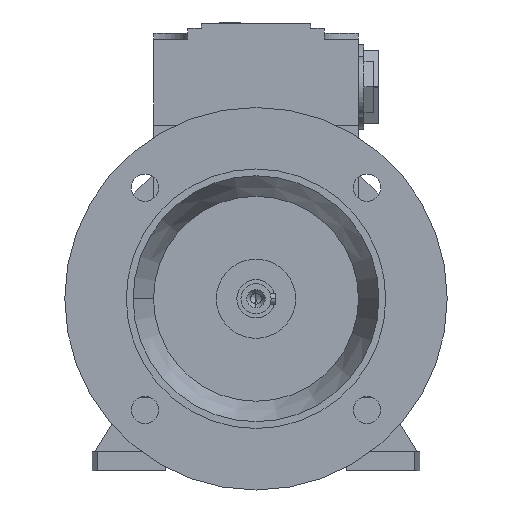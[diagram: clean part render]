
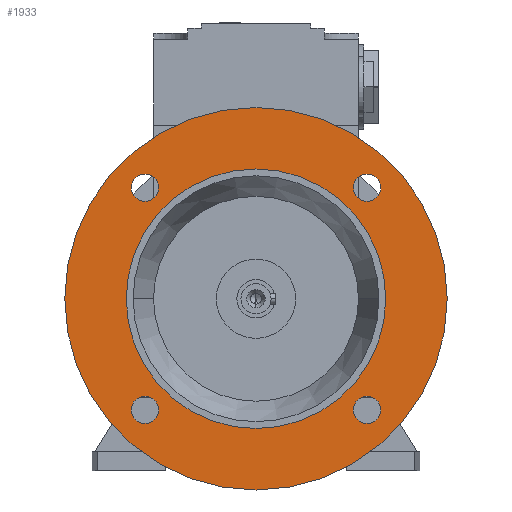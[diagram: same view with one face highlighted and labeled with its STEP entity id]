
A CAD part, left-side view. The second image highlights one B-rep face of the part: STEP entity #1933.
In plain terms, the highlighted planar face has unit normal (-1, 0, 0).
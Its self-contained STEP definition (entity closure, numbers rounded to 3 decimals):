
#1933=ADVANCED_FACE('',(#3911,#3912,#3913,#3914,#3915,#3916),#3917,.T.);
#3911=FACE_BOUND('',#5892,.T.);
#3912=FACE_BOUND('',#5893,.T.);
#3913=FACE_BOUND('',#5894,.T.);
#3914=FACE_BOUND('',#5895,.T.);
#3915=FACE_OUTER_BOUND('',#5896,.T.);
#3916=FACE_BOUND('',#5897,.T.);
#3917=PLANE('',#5898);
#5892=EDGE_LOOP('',(#11945,#11946));
#5893=EDGE_LOOP('',(#11947,#11948));
#5894=EDGE_LOOP('',(#11949,#11950));
#5895=EDGE_LOOP('',(#11951,#11952));
#5896=EDGE_LOOP('',(#11953,#11954));
#5897=EDGE_LOOP('',(#11955,#11956));
#5898=AXIS2_PLACEMENT_3D('',#11957,#11958,#11959);
#11945=ORIENTED_EDGE('',*,*,#14334,.T.);
#11946=ORIENTED_EDGE('',*,*,#12044,.T.);
#11947=ORIENTED_EDGE('',*,*,#14337,.T.);
#11948=ORIENTED_EDGE('',*,*,#12039,.T.);
#11949=ORIENTED_EDGE('',*,*,#14340,.T.);
#11950=ORIENTED_EDGE('',*,*,#12034,.T.);
#11951=ORIENTED_EDGE('',*,*,#14343,.T.);
#11952=ORIENTED_EDGE('',*,*,#12029,.T.);
#11953=ORIENTED_EDGE('',*,*,#12013,.F.);
#11954=ORIENTED_EDGE('',*,*,#14387,.F.);
#11955=ORIENTED_EDGE('',*,*,#12020,.T.);
#11956=ORIENTED_EDGE('',*,*,#14385,.T.);
#11957=CARTESIAN_POINT('',(-29.5,58.75,0.0));
#11958=DIRECTION('',(-1.0,0.0,0.0));
#11959=DIRECTION('',(0.0,-1.0,0.0));
#12013=EDGE_CURVE('',#14416,#14419,#14420,.T.);
#12020=EDGE_CURVE('',#14426,#14430,#14432,.T.);
#12029=EDGE_CURVE('',#14448,#14445,#14449,.T.);
#12034=EDGE_CURVE('',#14457,#14454,#14458,.T.);
#12039=EDGE_CURVE('',#14466,#14463,#14467,.T.);
#12044=EDGE_CURVE('',#14475,#14472,#14476,.T.);
#14334=EDGE_CURVE('',#14472,#14475,#17873,.T.);
#14337=EDGE_CURVE('',#14463,#14466,#17876,.T.);
#14340=EDGE_CURVE('',#14454,#14457,#17879,.T.);
#14343=EDGE_CURVE('',#14445,#14448,#17882,.T.);
#14385=EDGE_CURVE('',#14430,#14426,#17935,.T.);
#14387=EDGE_CURVE('',#14419,#14416,#17937,.T.);
#14416=VERTEX_POINT('',#17970);
#14419=VERTEX_POINT('',#17974);
#14420=CIRCLE('',#17975,70.0);
#14426=VERTEX_POINT('',#17982);
#14430=VERTEX_POINT('',#17987);
#14432=CIRCLE('',#17990,47.5);
#14445=VERTEX_POINT('',#18010);
#14448=VERTEX_POINT('',#18014);
#14449=CIRCLE('',#18015,5.0);
#14454=VERTEX_POINT('',#18021);
#14457=VERTEX_POINT('',#18025);
#14458=CIRCLE('',#18026,5.0);
#14463=VERTEX_POINT('',#18032);
#14466=VERTEX_POINT('',#18036);
#14467=CIRCLE('',#18037,5.0);
#14472=VERTEX_POINT('',#18043);
#14475=VERTEX_POINT('',#18047);
#14476=CIRCLE('',#18048,5.0);
#17873=CIRCLE('',#24609,5.0);
#17876=CIRCLE('',#24612,5.0);
#17879=CIRCLE('',#24615,5.0);
#17882=CIRCLE('',#24618,5.0);
#17935=CIRCLE('',#24721,47.5);
#17937=CIRCLE('',#24723,70.0);
#17970=CARTESIAN_POINT('',(-29.5,70.0,0.0));
#17974=CARTESIAN_POINT('',(-29.5,-70.0,0.));
#17975=AXIS2_PLACEMENT_3D('',#24750,#24751,#24752);
#17982=CARTESIAN_POINT('',(-29.5,47.5,0.0));
#17987=CARTESIAN_POINT('',(-29.5,-47.5,0.));
#17990=AXIS2_PLACEMENT_3D('',#24762,#24763,#24764);
#18010=CARTESIAN_POINT('',(-29.5,-44.194,44.194));
#18014=CARTESIAN_POINT('',(-29.5,-37.123,37.123));
#18015=AXIS2_PLACEMENT_3D('',#24778,#24779,#24780);
#18021=CARTESIAN_POINT('',(-29.5,44.194,44.194));
#18025=CARTESIAN_POINT('',(-29.5,37.123,37.123));
#18026=AXIS2_PLACEMENT_3D('',#24786,#24787,#24788);
#18032=CARTESIAN_POINT('',(-29.5,44.194,-44.194));
#18036=CARTESIAN_POINT('',(-29.5,37.123,-37.123));
#18037=AXIS2_PLACEMENT_3D('',#24794,#24795,#24796);
#18043=CARTESIAN_POINT('',(-29.5,-44.194,-44.194));
#18047=CARTESIAN_POINT('',(-29.5,-37.123,-37.123));
#18048=AXIS2_PLACEMENT_3D('',#24802,#24803,#24804);
#24609=AXIS2_PLACEMENT_3D('',#27088,#27089,#27090);
#24612=AXIS2_PLACEMENT_3D('',#27094,#27095,#27096);
#24615=AXIS2_PLACEMENT_3D('',#27100,#27101,#27102);
#24618=AXIS2_PLACEMENT_3D('',#27106,#27107,#27108);
#24721=AXIS2_PLACEMENT_3D('',#27142,#27143,#27144);
#24723=AXIS2_PLACEMENT_3D('',#27145,#27146,#27147);
#24750=CARTESIAN_POINT('',(-29.5,0.0,0.0));
#24751=DIRECTION('',(1.0,0.0,0.0));
#24752=DIRECTION('',(0.0,1.0,0.0));
#24762=CARTESIAN_POINT('',(-29.5,0.0,0.0));
#24763=DIRECTION('',(1.0,0.0,0.0));
#24764=DIRECTION('',(0.0,1.0,0.0));
#24778=CARTESIAN_POINT('',(-29.5,-40.659,40.659));
#24779=DIRECTION('',(1.0,0.0,-0.0));
#24780=DIRECTION('',(0.0,-0.707,0.707));
#24786=CARTESIAN_POINT('',(-29.5,40.659,40.659));
#24787=DIRECTION('',(1.0,0.0,-0.0));
#24788=DIRECTION('',(0.0,0.707,0.707));
#24794=CARTESIAN_POINT('',(-29.5,40.659,-40.659));
#24795=DIRECTION('',(1.0,-0.0,0.0));
#24796=DIRECTION('',(0.0,0.707,-0.707));
#24802=CARTESIAN_POINT('',(-29.5,-40.659,-40.659));
#24803=DIRECTION('',(1.0,0.0,0.0));
#24804=DIRECTION('',(0.0,-0.707,-0.707));
#27088=CARTESIAN_POINT('',(-29.5,-40.659,-40.659));
#27089=DIRECTION('',(1.0,0.0,0.0));
#27090=DIRECTION('',(0.0,-0.707,-0.707));
#27094=CARTESIAN_POINT('',(-29.5,40.659,-40.659));
#27095=DIRECTION('',(1.0,-0.0,0.0));
#27096=DIRECTION('',(0.0,0.707,-0.707));
#27100=CARTESIAN_POINT('',(-29.5,40.659,40.659));
#27101=DIRECTION('',(1.0,0.0,-0.0));
#27102=DIRECTION('',(0.0,0.707,0.707));
#27106=CARTESIAN_POINT('',(-29.5,-40.659,40.659));
#27107=DIRECTION('',(1.0,0.0,-0.0));
#27108=DIRECTION('',(0.0,-0.707,0.707));
#27142=CARTESIAN_POINT('',(-29.5,0.0,0.0));
#27143=DIRECTION('',(1.0,0.0,0.0));
#27144=DIRECTION('',(0.0,1.0,0.0));
#27145=CARTESIAN_POINT('',(-29.5,0.0,0.0));
#27146=DIRECTION('',(1.0,0.0,0.0));
#27147=DIRECTION('',(0.0,1.0,0.0));
